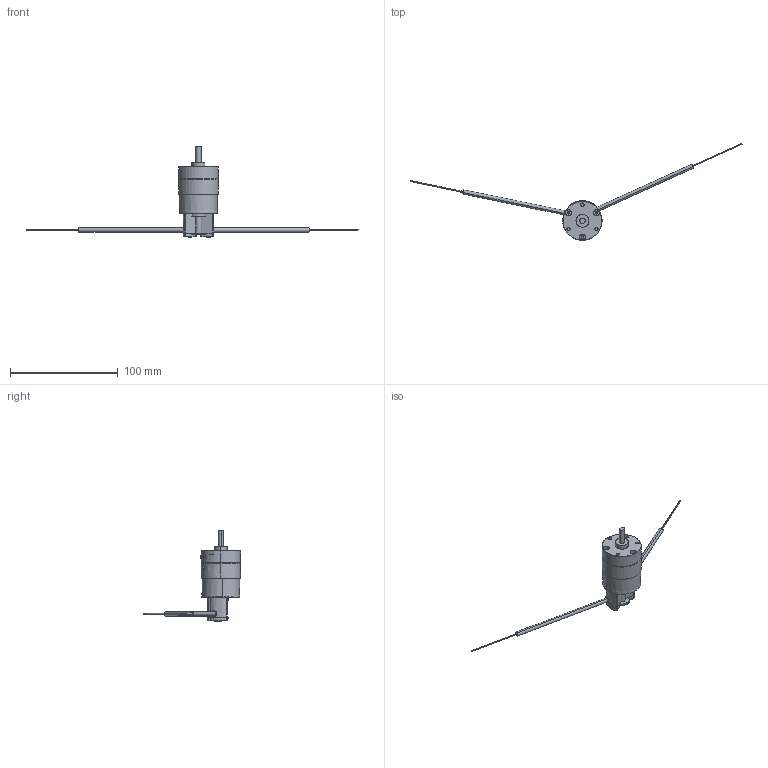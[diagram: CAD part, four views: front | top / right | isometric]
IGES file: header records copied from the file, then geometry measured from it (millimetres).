
Start section: SolidWorks IGES file using analytic representation for surfaces
Global section: file name: C:\Users\Chieh_Lu\Dropbox\¤u§@«Ç\PRO\PROA3S\PROA3S-#-#\PROA3S-#-#-#-FU.IGS; native system: SolidWorks 2014; preprocessor: SolidWorks 2014; author: Chieh_Lu; date: 150801.211404; units: millimetre
Bounding box: 307.86 x 90.04 x 85.22 mm (x, y, z)
Surface area: 23677.4 mm2 (no closed solid volume)
Topology: 0 solids, 0 shells, 509 faces, 7407 edges, 7395 vertices
Faces by surface type: revolution 256, bspline 253
